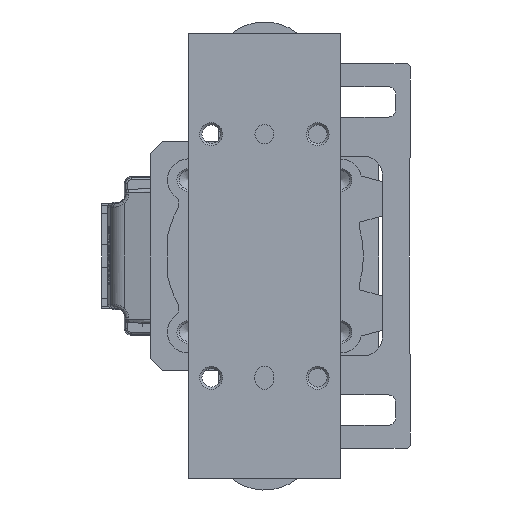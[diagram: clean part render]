
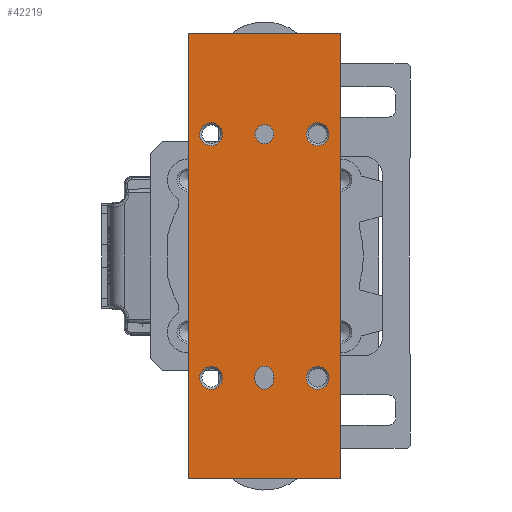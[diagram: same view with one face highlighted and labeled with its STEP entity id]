
A CAD part, left-side view. The second image highlights one B-rep face of the part: STEP entity #42219.
In plain terms, the highlighted planar face has unit normal (-1, 0, 0) as drawn and (0, 0, 1) by its records, which use the part's own axes.
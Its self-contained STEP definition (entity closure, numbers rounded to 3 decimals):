
#31 = VERTEX_POINT ( 'NONE', #11233 ) ;
#157 = DIRECTION ( 'NONE',  ( -1., 0., 0. ) ) ;
#212 = EDGE_LOOP ( 'NONE', ( #15066 ) ) ;
#313 = EDGE_CURVE ( 'NONE', #51726, #32024, #11683, .T. ) ;
#315 = LINE ( 'NONE', #40664, #18667 ) ;
#772 = ORIENTED_EDGE ( 'NONE', *, *, #27502, .T. ) ;
#1141 = CARTESIAN_POINT ( 'NONE',  ( 29., -14., 28.5 ) ) ;
#1159 = ORIENTED_EDGE ( 'NONE', *, *, #6483, .T. ) ;
#2618 = ORIENTED_EDGE ( 'NONE', *, *, #20578, .T. ) ;
#2938 = ORIENTED_EDGE ( 'NONE', *, *, #313, .F. ) ;
#3117 = CIRCLE ( 'NONE', #4811, 2.5 ) ;
#4021 = VERTEX_POINT ( 'NONE', #36752 ) ;
#4066 = DIRECTION ( 'NONE',  ( 0., 1., 0. ) ) ;
#4236 = ORIENTED_EDGE ( 'NONE', *, *, #32426, .F. ) ;
#4811 = AXIS2_PLACEMENT_3D ( 'NONE', #31252, #15900, #19972 ) ;
#6408 = ORIENTED_EDGE ( 'NONE', *, *, #48503, .T. ) ;
#6483 = EDGE_CURVE ( 'NONE', #7339, #7339, #39396, .T. ) ;
#6986 = CARTESIAN_POINT ( 'NONE',  ( -58.5, -20., 28.5 ) ) ;
#7069 = EDGE_LOOP ( 'NONE', ( #4236, #2938, #52435, #8289 ) ) ;
#7227 = CARTESIAN_POINT ( 'NONE',  ( -58.5, 20., 28.5 ) ) ;
#7339 = VERTEX_POINT ( 'NONE', #23749 ) ;
#7478 = DIRECTION ( 'NONE',  ( 0., 0., 1. ) ) ;
#7502 = CARTESIAN_POINT ( 'NONE',  ( 0., 0., 28.5 ) ) ;
#7606 = EDGE_LOOP ( 'NONE', ( #30885 ) ) ;
#8289 = ORIENTED_EDGE ( 'NONE', *, *, #48798, .F. ) ;
#9197 = LINE ( 'NONE', #42038, #20349 ) ;
#9966 = DIRECTION ( 'NONE',  ( 0., 0., -1. ) ) ;
#11233 = CARTESIAN_POINT ( 'NONE',  ( 58.5, -20., 28.5 ) ) ;
#11683 = LINE ( 'NONE', #15733, #26032 ) ;
#11701 = CIRCLE ( 'NONE', #45210, 3. ) ;
#12495 = CIRCLE ( 'NONE', #42621, 3. ) ;
#14255 = VERTEX_POINT ( 'NONE', #1141 ) ;
#14437 = CARTESIAN_POINT ( 'NONE',  ( -31.5, 2.5, 28.5 ) ) ;
#15066 = ORIENTED_EDGE ( 'NONE', *, *, #26166, .F. ) ;
#15077 = VERTEX_POINT ( 'NONE', #47949 ) ;
#15733 = CARTESIAN_POINT ( 'NONE',  ( -32.5, 2.5, 28.5 ) ) ;
#15840 = FACE_BOUND ( 'NONE', #22902, .T. ) ;
#15900 = DIRECTION ( 'NONE',  ( 0., 0., 1. ) ) ;
#18541 = CARTESIAN_POINT ( 'NONE',  ( -31.5, 0., 28.5 ) ) ;
#18667 = VECTOR ( 'NONE', #4066, 1000. ) ;
#18815 = CARTESIAN_POINT ( 'NONE',  ( -58.5, 20., 28.5 ) ) ;
#18988 = AXIS2_PLACEMENT_3D ( 'NONE', #18541, #25813, #21777 ) ;
#19762 = EDGE_CURVE ( 'NONE', #24138, #36040, #49194, .T. ) ;
#19894 = DIRECTION ( 'NONE',  ( 1., 0., 0. ) ) ;
#19961 = AXIS2_PLACEMENT_3D ( 'NONE', #7502, #40087, #27719 ) ;
#19972 = DIRECTION ( 'NONE',  ( 1., 0., 0. ) ) ;
#20349 = VECTOR ( 'NONE', #47146, 1000. ) ;
#20578 = EDGE_CURVE ( 'NONE', #4021, #31, #30408, .T. ) ;
#21697 = EDGE_LOOP ( 'NONE', ( #772 ) ) ;
#21777 = DIRECTION ( 'NONE',  ( 1., 0., 0. ) ) ;
#22088 = VERTEX_POINT ( 'NONE', #42295 ) ;
#22825 = CARTESIAN_POINT ( 'NONE',  ( -32.5, -2.5, 28.5 ) ) ;
#22902 = EDGE_LOOP ( 'NONE', ( #1159 ) ) ;
#23644 = DIRECTION ( 'NONE',  ( -1., 0., 0. ) ) ;
#23749 = CARTESIAN_POINT ( 'NONE',  ( -35., -14., 28.5 ) ) ;
#24138 = VERTEX_POINT ( 'NONE', #45171 ) ;
#25222 = CIRCLE ( 'NONE', #49326, 2.5 ) ;
#25672 = CARTESIAN_POINT ( 'NONE',  ( -31.5, -2.5, 28.5 ) ) ;
#25682 = DIRECTION ( 'NONE',  ( 0., 0., -1. ) ) ;
#25813 = DIRECTION ( 'NONE',  ( 0., 0., 1. ) ) ;
#26032 = VECTOR ( 'NONE', #28110, 1000. ) ;
#26166 = EDGE_CURVE ( 'NONE', #22088, #22088, #25222, .T. ) ;
#27168 = FACE_BOUND ( 'NONE', #7069, .T. ) ;
#27502 = EDGE_CURVE ( 'NONE', #14255, #14255, #12495, .T. ) ;
#27715 = DIRECTION ( 'NONE',  ( 0., -1., 0. ) ) ;
#27719 = DIRECTION ( 'NONE',  ( -1., 0., 0. ) ) ;
#27907 = ORIENTED_EDGE ( 'NONE', *, *, #19762, .T. ) ;
#27926 = ORIENTED_EDGE ( 'NONE', *, *, #46687, .T. ) ;
#28009 = EDGE_CURVE ( 'NONE', #30663, #30663, #11701, .T. ) ;
#28110 = DIRECTION ( 'NONE',  ( -1., 0., 0. ) ) ;
#28200 = CARTESIAN_POINT ( 'NONE',  ( 32., 0., 28.5 ) ) ;
#28420 = CIRCLE ( 'NONE', #18988, 2.5 ) ;
#30408 = LINE ( 'NONE', #38500, #49320 ) ;
#30663 = VERTEX_POINT ( 'NONE', #37964 ) ;
#30747 = ORIENTED_EDGE ( 'NONE', *, *, #41783, .T. ) ;
#30801 = VERTEX_POINT ( 'NONE', #25672 ) ;
#30885 = ORIENTED_EDGE ( 'NONE', *, *, #28009, .T. ) ;
#31135 = DIRECTION ( 'NONE',  ( 0., 0., -1. ) ) ;
#31252 = CARTESIAN_POINT ( 'NONE',  ( -32.5, 0., 28.5 ) ) ;
#31493 = DIRECTION ( 'NONE',  ( -1., 0., 0. ) ) ;
#31733 = EDGE_LOOP ( 'NONE', ( #27926, #27907, #30747, #2618 ) ) ;
#32024 = VERTEX_POINT ( 'NONE', #47227 ) ;
#32153 = DIRECTION ( 'NONE',  ( 0., 0., -1. ) ) ;
#32426 = EDGE_CURVE ( 'NONE', #32024, #33116, #3117, .T. ) ;
#33116 = VERTEX_POINT ( 'NONE', #22825 ) ;
#35508 = FACE_OUTER_BOUND ( 'NONE', #31733, .T. ) ;
#35535 = CARTESIAN_POINT ( 'NONE',  ( 32., 14., 28.5 ) ) ;
#36040 = VERTEX_POINT ( 'NONE', #18815 ) ;
#36610 = AXIS2_PLACEMENT_3D ( 'NONE', #48126, #31135, #51318 ) ;
#36752 = CARTESIAN_POINT ( 'NONE',  ( -58.5, -20., 28.5 ) ) ;
#37964 = CARTESIAN_POINT ( 'NONE',  ( 29., 14., 28.5 ) ) ;
#38500 = CARTESIAN_POINT ( 'NONE',  ( -58.5, -20., 28.5 ) ) ;
#39170 = EDGE_LOOP ( 'NONE', ( #6408 ) ) ;
#39396 = CIRCLE ( 'NONE', #46273, 3. ) ;
#40087 = DIRECTION ( 'NONE',  ( 0., 0., -1. ) ) ;
#40664 = CARTESIAN_POINT ( 'NONE',  ( 58.5, -20., 28.5 ) ) ;
#40709 = EDGE_CURVE ( 'NONE', #30801, #51726, #28420, .T. ) ;
#41783 = EDGE_CURVE ( 'NONE', #36040, #4021, #48452, .T. ) ;
#42038 = CARTESIAN_POINT ( 'NONE',  ( -32.5, -2.5, 28.5 ) ) ;
#42115 = DIRECTION ( 'NONE',  ( -1., 0., 0. ) ) ;
#42219 = ADVANCED_FACE ( 'NONE', ( #52174, #48189, #15840, #52963, #47645, #35508, #27168 ), #47921, .F. ) ;
#42295 = CARTESIAN_POINT ( 'NONE',  ( 34.5, 0., 28.5 ) ) ;
#42493 = VECTOR ( 'NONE', #23644, 1000. ) ;
#42621 = AXIS2_PLACEMENT_3D ( 'NONE', #45066, #32153, #157 ) ;
#42658 = CARTESIAN_POINT ( 'NONE',  ( -32., -14., 28.5 ) ) ;
#45066 = CARTESIAN_POINT ( 'NONE',  ( 32., -14., 28.5 ) ) ;
#45171 = CARTESIAN_POINT ( 'NONE',  ( 58.5, 20., 28.5 ) ) ;
#45210 = AXIS2_PLACEMENT_3D ( 'NONE', #35535, #9966, #31493 ) ;
#46086 = CIRCLE ( 'NONE', #36610, 3. ) ;
#46273 = AXIS2_PLACEMENT_3D ( 'NONE', #42658, #25682, #42115 ) ;
#46687 = EDGE_CURVE ( 'NONE', #31, #24138, #315, .T. ) ;
#46874 = DIRECTION ( 'NONE',  ( 1., 0., 0. ) ) ;
#47146 = DIRECTION ( 'NONE',  ( 1., 0., 0. ) ) ;
#47227 = CARTESIAN_POINT ( 'NONE',  ( -32.5, 2.5, 28.5 ) ) ;
#47645 = FACE_BOUND ( 'NONE', #212, .T. ) ;
#47921 = PLANE ( 'NONE',  #19961 ) ;
#47949 = CARTESIAN_POINT ( 'NONE',  ( -35., 14., 28.5 ) ) ;
#48126 = CARTESIAN_POINT ( 'NONE',  ( -32., 14., 28.5 ) ) ;
#48189 = FACE_BOUND ( 'NONE', #21697, .T. ) ;
#48452 = LINE ( 'NONE', #6986, #51699 ) ;
#48503 = EDGE_CURVE ( 'NONE', #15077, #15077, #46086, .T. ) ;
#48798 = EDGE_CURVE ( 'NONE', #33116, #30801, #9197, .T. ) ;
#49194 = LINE ( 'NONE', #7227, #42493 ) ;
#49320 = VECTOR ( 'NONE', #46874, 1000. ) ;
#49326 = AXIS2_PLACEMENT_3D ( 'NONE', #28200, #7478, #19894 ) ;
#51318 = DIRECTION ( 'NONE',  ( -1., 0., 0. ) ) ;
#51699 = VECTOR ( 'NONE', #27715, 1000. ) ;
#51726 = VERTEX_POINT ( 'NONE', #14437 ) ;
#52174 = FACE_BOUND ( 'NONE', #7606, .T. ) ;
#52435 = ORIENTED_EDGE ( 'NONE', *, *, #40709, .F. ) ;
#52963 = FACE_BOUND ( 'NONE', #39170, .T. ) ;
